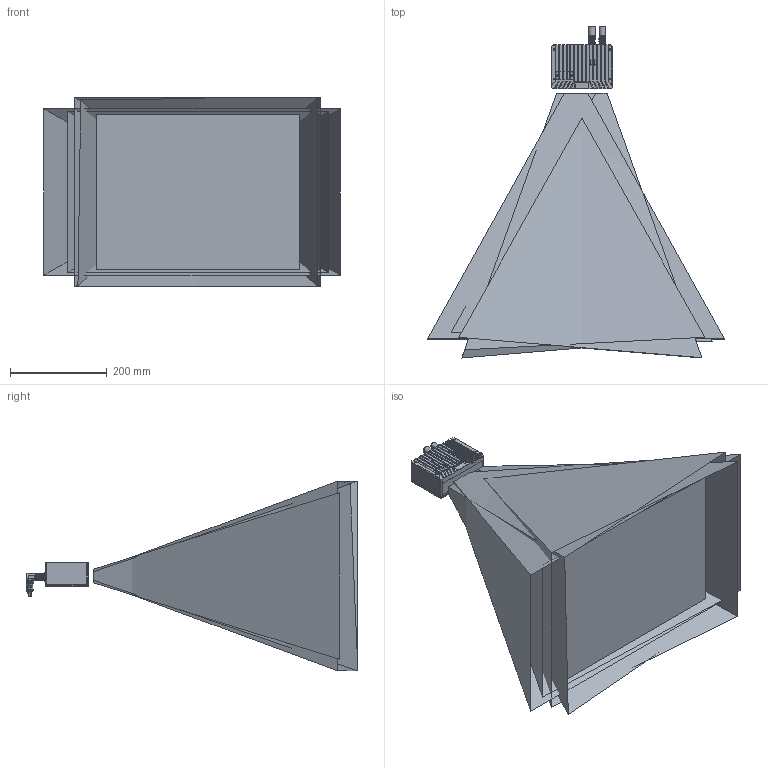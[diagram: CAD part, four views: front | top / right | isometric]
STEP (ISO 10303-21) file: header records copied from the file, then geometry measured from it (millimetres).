
FILE_DESCRIPTION((''),'2;1');
FILE_NAME('DPS200P--0002','2025-10-27T17:01:01',('yangtao11'),(''),'CREO PARAMETRIC BY PTC INC, 2020044','CREO PARAMETRIC BY PTC INC, 2020044','');
FILE_SCHEMA(('CONFIG_CONTROL_DESIGN','SHAPE_APPEARANCE_LAYERS_GROUPS'));
Products named in the file (1): DPS200P--0002
Bounding box: 612.16 x 685 x 391.28 mm (x, y, z)
Volume: 18800000 mm3; surface area: 2638087 mm2
Topology: 1 solids, 59 shells, 1100 faces, 3688 edges, 2586 vertices
Faces by surface type: plane 520, cylinder 358, cone 116, bspline 63, torus 43
Entity records: 82022 total; most frequent: CARTESIAN_POINT 48290, ORIENTED_EDGE 6207, DIRECTION 5858, EDGE_CURVE 3672, VERTEX_POINT 2586, AXIS2_PLACEMENT_3D 1964, VECTOR 1930, LINE 1930
